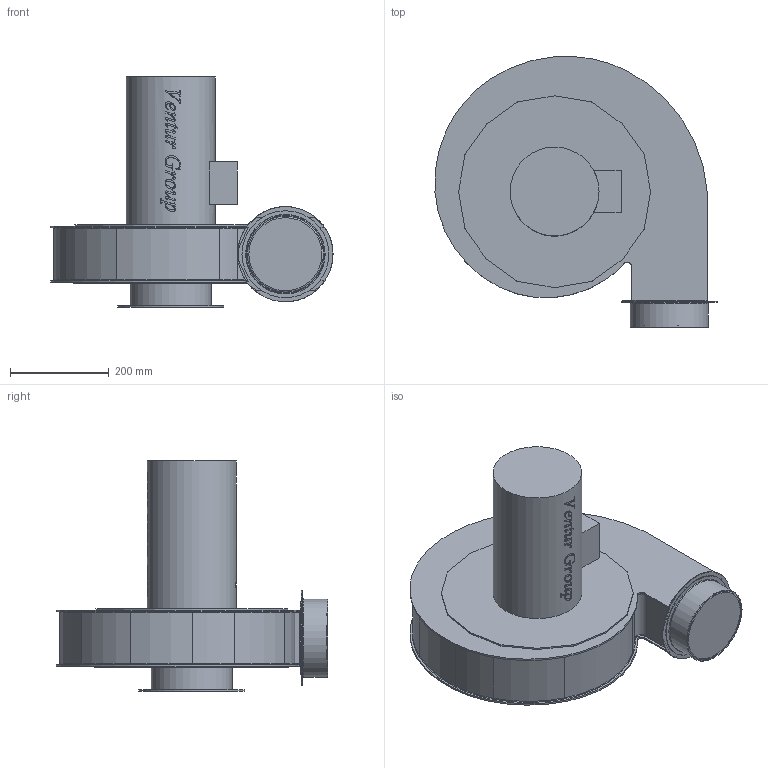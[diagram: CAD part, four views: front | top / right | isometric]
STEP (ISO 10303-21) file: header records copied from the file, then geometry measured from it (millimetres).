
FILE_DESCRIPTION(/* description */ (''),/* implementation_level */ '2;1');
FILE_NAME(/* name */ 'E:\Mariusz\Modele uproszczone\GMT-K\GMT-K_250_150T RD90 43552350\GMT-K_250_150T RD90 43552350\GMT-K_250_150T RD90 43552350.stp',/* time_stamp */ '2018-07-16T16:39:15+02:00',/* author */ ('M.Janczarek'),/* organization */ (''),/* preprocessor_version */ 'ST-DEVELOPER v16.5',/* originating_system */ 'Autodesk Inventor 2017',/* authorisation */ '');
FILE_SCHEMA (('AUTOMOTIVE_DESIGN { 1 0 10303 214 3 1 1 }'));
Length unit declared in the file: millimetre
Products named in the file (1): GMT-K_250_150T RD90 43552350
Bounding box: 571.38 x 549.02 x 466 mm (x, y, z)
Volume: 33949654.4 mm3; surface area: 1003008.7 mm2
Topology: 1 solids, 1 shells, 695 faces, 1932 edges, 1278 vertices
Faces by surface type: bspline 427, plane 134, cylinder 112, torus 22
Full cylindrical faces by diameter (mm): 7.1 x6, 154 x1, 158 x1, 160 x1, 164 x1, 176 x1, 180 x1, 193 x1, 215 x1, 393 x1
Entity records: 29851 total; most frequent: CARTESIAN_POINT 14286, ORIENTED_EDGE 3814, DIRECTION 2056, EDGE_CURVE 1907, VERTEX_POINT 1271, LINE 834, VECTOR 834, EDGE_LOOP 764
